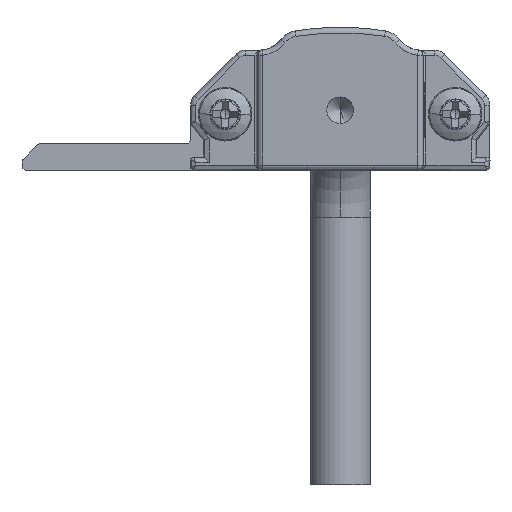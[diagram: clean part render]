
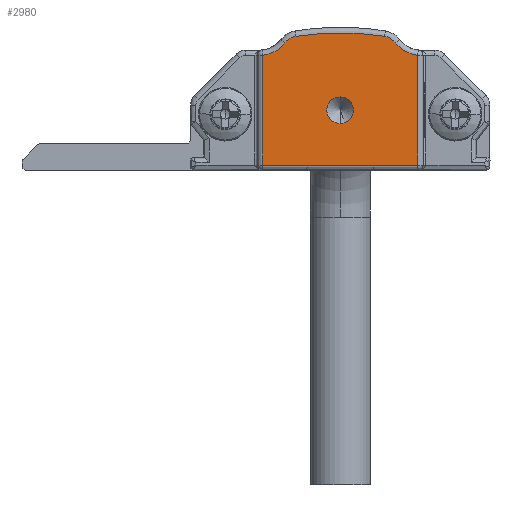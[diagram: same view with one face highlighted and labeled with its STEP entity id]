
A CAD part, front view. The second image highlights one B-rep face of the part: STEP entity #2980.
In plain terms, the highlighted planar face has unit normal (0, -1, 0).
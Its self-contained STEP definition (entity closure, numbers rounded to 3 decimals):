
#197 = CIRCLE ( 'NONE', #14950, 1.3 ) ;
#410 = DIRECTION ( 'NONE',  ( 0., 0., 1. ) ) ;
#967 = ORIENTED_EDGE ( 'NONE', *, *, #30863, .T. ) ;
#1310 = VECTOR ( 'NONE', #20521, 1000. ) ;
#1412 = LINE ( 'NONE', #3650, #1310 ) ;
#1819 = DIRECTION ( 'NONE',  ( 0., 0., -1. ) ) ;
#2062 = VECTOR ( 'NONE', #410, 1000. ) ;
#2102 = DIRECTION ( 'NONE',  ( 0., 0., -1. ) ) ;
#2176 = AXIS2_PLACEMENT_3D ( 'NONE', #6683, #16415, #18620 ) ;
#2247 = LINE ( 'NONE', #9560, #5623 ) ;
#2305 = VERTEX_POINT ( 'NONE', #14157 ) ;
#2980 = ADVANCED_FACE ( 'NONE', ( #21029, #3842 ), #15939, .T. ) ;
#3268 = EDGE_CURVE ( 'NONE', #12881, #2305, #1412, .T. ) ;
#3487 = CARTESIAN_POINT ( 'NONE',  ( 17.238, -15., 11. ) ) ;
#3650 = CARTESIAN_POINT ( 'NONE',  ( 17., -15., 0.4 ) ) ;
#3738 = DIRECTION ( 'NONE',  ( 0., -1., 0. ) ) ;
#3842 = FACE_BOUND ( 'NONE', #27636, .T. ) ;
#3887 = AXIS2_PLACEMENT_3D ( 'NONE', #10556, #3738, #1819 ) ;
#4417 = CARTESIAN_POINT ( 'NONE',  ( 17., -15., 8.612 ) ) ;
#5220 = CIRCLE ( 'NONE', #2176, 20.676 ) ;
#5267 = CARTESIAN_POINT ( 'NONE',  ( 5.4, -15., 8.612 ) ) ;
#5623 = VECTOR ( 'NONE', #2102, 1000. ) ;
#5844 = ORIENTED_EDGE ( 'NONE', *, *, #22742, .F. ) ;
#6599 = VERTEX_POINT ( 'NONE', #21273 ) ;
#6683 = CARTESIAN_POINT ( 'NONE',  ( 11.2, -15., -10.376 ) ) ;
#7384 = LINE ( 'NONE', #14449, #2062 ) ;
#7612 = EDGE_CURVE ( 'NONE', #2305, #15558, #7384, .T. ) ;
#7684 = CARTESIAN_POINT ( 'NONE',  ( 14.3, -15., 8.75 ) ) ;
#7857 = AXIS2_PLACEMENT_3D ( 'NONE', #21184, #13573, #18313 ) ;
#8153 = EDGE_CURVE ( 'NONE', #11761, #12881, #2247, .T. ) ;
#8253 = ORIENTED_EDGE ( 'NONE', *, *, #10742, .F. ) ;
#8317 = CARTESIAN_POINT ( 'NONE',  ( 8.1, -15., 8.75 ) ) ;
#9031 = EDGE_CURVE ( 'NONE', #10707, #26915, #5220, .T. ) ;
#9560 = CARTESIAN_POINT ( 'NONE',  ( 5.4, -15., 0.4 ) ) ;
#10095 = CARTESIAN_POINT ( 'NONE',  ( 14.508, -15., 10.034 ) ) ;
#10179 = DIRECTION ( 'NONE',  ( 0., -1., 0. ) ) ;
#10556 = CARTESIAN_POINT ( 'NONE',  ( 11.2, -15., 4.5 ) ) ;
#10673 = CARTESIAN_POINT ( 'NONE',  ( 15.332, -15., 9.541 ) ) ;
#10707 = VERTEX_POINT ( 'NONE', #10095 ) ;
#10742 = EDGE_CURVE ( 'NONE', #27833, #6599, #16088, .T. ) ;
#10882 = AXIS2_PLACEMENT_3D ( 'NONE', #7684, #15212, #12652 ) ;
#10950 = CIRCLE ( 'NONE', #28727, 1. ) ;
#11319 = ORIENTED_EDGE ( 'NONE', *, *, #7612, .T. ) ;
#11761 = VERTEX_POINT ( 'NONE', #5267 ) ;
#12173 = VERTEX_POINT ( 'NONE', #23768 ) ;
#12652 = DIRECTION ( 'NONE',  ( 0., 0., -1. ) ) ;
#12881 = VERTEX_POINT ( 'NONE', #18729 ) ;
#13573 = DIRECTION ( 'NONE',  ( 0., -1., 0. ) ) ;
#13627 = EDGE_CURVE ( 'NONE', #15558, #17131, #23746, .T. ) ;
#14157 = CARTESIAN_POINT ( 'NONE',  ( 17., -15., 0.4 ) ) ;
#14162 = ORIENTED_EDGE ( 'NONE', *, *, #25280, .T. ) ;
#14449 = CARTESIAN_POINT ( 'NONE',  ( 17., -15., 8.612 ) ) ;
#14950 = AXIS2_PLACEMENT_3D ( 'NONE', #8317, #18074, #17764 ) ;
#15212 = DIRECTION ( 'NONE',  ( 0., -1., 0. ) ) ;
#15558 = VERTEX_POINT ( 'NONE', #4417 ) ;
#15939 = PLANE ( 'NONE',  #7857 ) ;
#16088 = CIRCLE ( 'NONE', #3887, 1. ) ;
#16382 = EDGE_CURVE ( 'NONE', #12173, #11761, #19335, .T. ) ;
#16415 = DIRECTION ( 'NONE',  ( 0., -1., 0. ) ) ;
#16582 = ORIENTED_EDGE ( 'NONE', *, *, #13627, .T. ) ;
#17131 = VERTEX_POINT ( 'NONE', #10673 ) ;
#17195 = AXIS2_PLACEMENT_3D ( 'NONE', #3487, #20673, #27794 ) ;
#17764 = DIRECTION ( 'NONE',  ( 0., 0., -1. ) ) ;
#17979 = ORIENTED_EDGE ( 'NONE', *, *, #9031, .T. ) ;
#18074 = DIRECTION ( 'NONE',  ( 0., -1., 0. ) ) ;
#18087 = CARTESIAN_POINT ( 'NONE',  ( 7.892, -15., 10.034 ) ) ;
#18313 = DIRECTION ( 'NONE',  ( 0., 0., -1. ) ) ;
#18620 = DIRECTION ( 'NONE',  ( 0., 0., -1. ) ) ;
#18729 = CARTESIAN_POINT ( 'NONE',  ( 5.4, -15., 0.4 ) ) ;
#19060 = DIRECTION ( 'NONE',  ( 0., 1., 0. ) ) ;
#19335 = CIRCLE ( 'NONE', #24881, 2.4 ) ;
#20521 = DIRECTION ( 'NONE',  ( 1., 0., 0. ) ) ;
#20673 = DIRECTION ( 'NONE',  ( 0., 1., 0. ) ) ;
#21029 = FACE_OUTER_BOUND ( 'NONE', #21834, .T. ) ;
#21184 = CARTESIAN_POINT ( 'NONE',  ( 22.15, -15., 3.606 ) ) ;
#21273 = CARTESIAN_POINT ( 'NONE',  ( 11.2, -15., 3.5 ) ) ;
#21603 = CARTESIAN_POINT ( 'NONE',  ( 5.162, -15., 11. ) ) ;
#21834 = EDGE_LOOP ( 'NONE', ( #11319, #16582, #14162, #17979, #967, #23385, #30176, #23577 ) ) ;
#22431 = CARTESIAN_POINT ( 'NONE',  ( 11.2, -15., 4.5 ) ) ;
#22742 = EDGE_CURVE ( 'NONE', #6599, #27833, #10950, .T. ) ;
#23385 = ORIENTED_EDGE ( 'NONE', *, *, #16382, .T. ) ;
#23577 = ORIENTED_EDGE ( 'NONE', *, *, #3268, .T. ) ;
#23746 = CIRCLE ( 'NONE', #17195, 2.4 ) ;
#23768 = CARTESIAN_POINT ( 'NONE',  ( 7.068, -15., 9.541 ) ) ;
#24488 = DIRECTION ( 'NONE',  ( 0., 0., -1. ) ) ;
#24580 = CIRCLE ( 'NONE', #10882, 1.3 ) ;
#24881 = AXIS2_PLACEMENT_3D ( 'NONE', #21603, #19060, #28915 ) ;
#25280 = EDGE_CURVE ( 'NONE', #17131, #10707, #24580, .T. ) ;
#26915 = VERTEX_POINT ( 'NONE', #18087 ) ;
#27219 = CARTESIAN_POINT ( 'NONE',  ( 11.2, -15., 5.5 ) ) ;
#27636 = EDGE_LOOP ( 'NONE', ( #5844, #8253 ) ) ;
#27794 = DIRECTION ( 'NONE',  ( 0., 0., -1. ) ) ;
#27833 = VERTEX_POINT ( 'NONE', #27219 ) ;
#28727 = AXIS2_PLACEMENT_3D ( 'NONE', #22431, #10179, #24488 ) ;
#28915 = DIRECTION ( 'NONE',  ( 0., 0., -1. ) ) ;
#30176 = ORIENTED_EDGE ( 'NONE', *, *, #8153, .T. ) ;
#30863 = EDGE_CURVE ( 'NONE', #26915, #12173, #197, .T. ) ;
